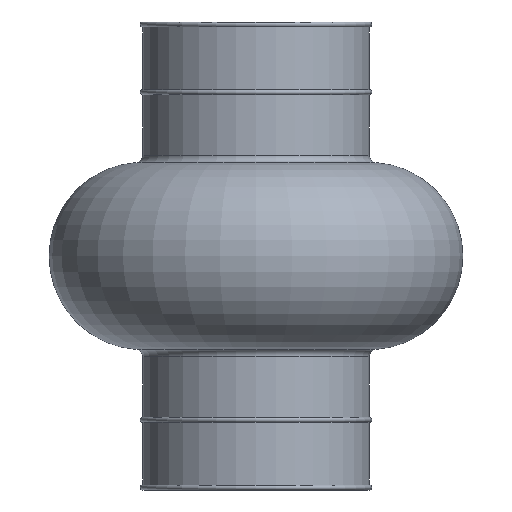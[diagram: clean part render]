
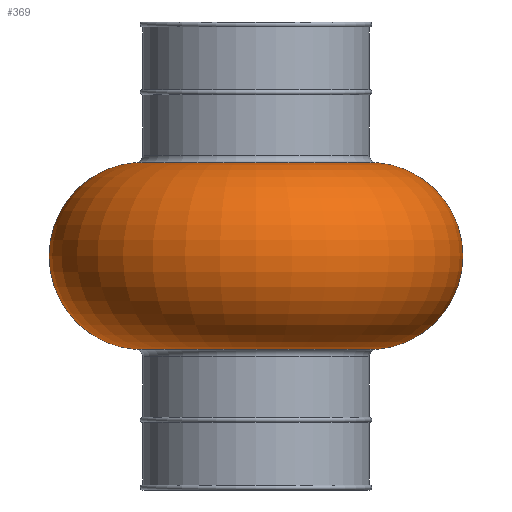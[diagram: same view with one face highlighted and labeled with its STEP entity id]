
A CAD part, left-side view. The second image highlights one B-rep face of the part: STEP entity #369.
In plain terms, the highlighted toroidal (fillet/blend) face has major radius 23 mm and minor radius 19 mm.
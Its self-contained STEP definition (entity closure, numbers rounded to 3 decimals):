
#11 = ORIENTED_EDGE ( 'NONE', *, *, #48, .T. ) ;
#17 = DIRECTION ( 'NONE',  ( 0., 0., 1. ) ) ;
#32 = EDGE_CURVE ( 'NONE', #217, #674, #731, .T. ) ;
#43 = CIRCLE ( 'NONE', #243, 19. ) ;
#48 = EDGE_CURVE ( 'NONE', #217, #594, #226, .T. ) ;
#82 = AXIS2_PLACEMENT_3D ( 'NONE', #97, #712, #653 ) ;
#85 = DIRECTION ( 'NONE',  ( 0., -1., 0. ) ) ;
#97 = CARTESIAN_POINT ( 'NONE',  ( 0., -23., 0. ) ) ;
#128 = DIRECTION ( 'NONE',  ( 0., 1., 0. ) ) ;
#133 = DIRECTION ( 'NONE',  ( 0., 0., -1. ) ) ;
#135 = VERTEX_POINT ( 'NONE', #401 ) ;
#159 = CARTESIAN_POINT ( 'NONE',  ( 0., -24.39, -18.949 ) ) ;
#183 = AXIS2_PLACEMENT_3D ( 'NONE', #696, #17, #85 ) ;
#201 = ORIENTED_EDGE ( 'NONE', *, *, #264, .T. ) ;
#203 = CARTESIAN_POINT ( 'NONE',  ( 0., 0., 18.949 ) ) ;
#217 = VERTEX_POINT ( 'NONE', #282 ) ;
#226 = CIRCLE ( 'NONE', #257, 24.39 ) ;
#243 = AXIS2_PLACEMENT_3D ( 'NONE', #862, #389, #466 ) ;
#257 = AXIS2_PLACEMENT_3D ( 'NONE', #203, #275, #613 ) ;
#261 = ORIENTED_EDGE ( 'NONE', *, *, #32, .F. ) ;
#264 = EDGE_CURVE ( 'NONE', #135, #674, #803, .T. ) ;
#275 = DIRECTION ( 'NONE',  ( 0., 0., -1. ) ) ;
#282 = CARTESIAN_POINT ( 'NONE',  ( 0., -24.39, 18.949 ) ) ;
#312 = AXIS2_PLACEMENT_3D ( 'NONE', #536, #133, #128 ) ;
#369 = ADVANCED_FACE ( 'NONE', ( #795 ), #786, .T. ) ;
#389 = DIRECTION ( 'NONE',  ( -1., 0., 0. ) ) ;
#401 = CARTESIAN_POINT ( 'NONE',  ( 0., 24.39, -18.949 ) ) ;
#422 = EDGE_CURVE ( 'NONE', #594, #135, #43, .T. ) ;
#436 = CARTESIAN_POINT ( 'NONE',  ( 0., 24.39, 18.949 ) ) ;
#466 = DIRECTION ( 'NONE',  ( 0., 0., 1. ) ) ;
#536 = CARTESIAN_POINT ( 'NONE',  ( 0., 0., 0. ) ) ;
#582 = ORIENTED_EDGE ( 'NONE', *, *, #422, .T. ) ;
#594 = VERTEX_POINT ( 'NONE', #436 ) ;
#613 = DIRECTION ( 'NONE',  ( 0., 1., 0. ) ) ;
#625 = EDGE_LOOP ( 'NONE', ( #261, #11, #582, #201 ) ) ;
#653 = DIRECTION ( 'NONE',  ( 0., 1., 0. ) ) ;
#674 = VERTEX_POINT ( 'NONE', #159 ) ;
#696 = CARTESIAN_POINT ( 'NONE',  ( 0., 0., -18.949 ) ) ;
#712 = DIRECTION ( 'NONE',  ( 1., 0., 0. ) ) ;
#731 = CIRCLE ( 'NONE', #82, 19. ) ;
#786 = TOROIDAL_SURFACE ( 'NONE', #312, 23., 19. ) ;
#795 = FACE_OUTER_BOUND ( 'NONE', #625, .T. ) ;
#803 = CIRCLE ( 'NONE', #183, 24.39 ) ;
#862 = CARTESIAN_POINT ( 'NONE',  ( 0., 23., 0. ) ) ;
